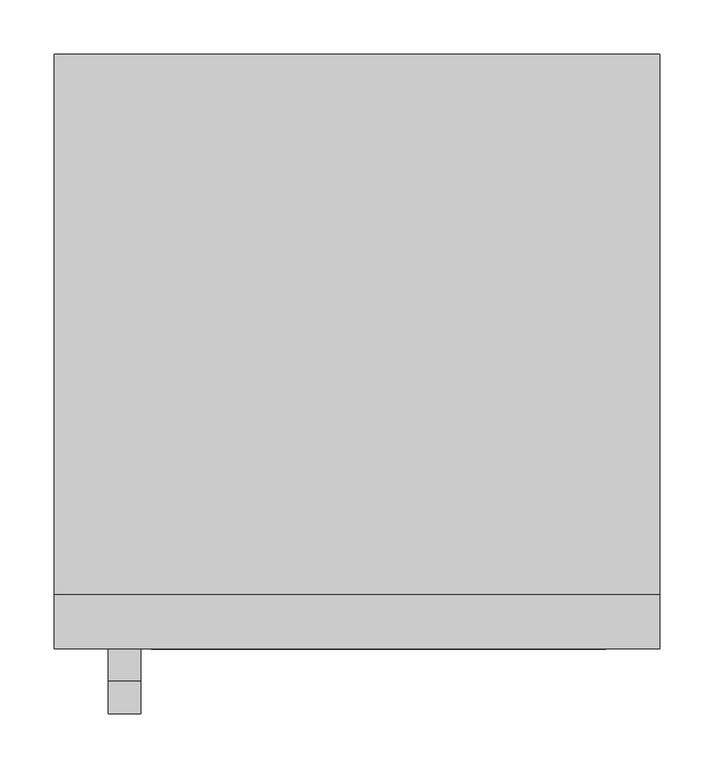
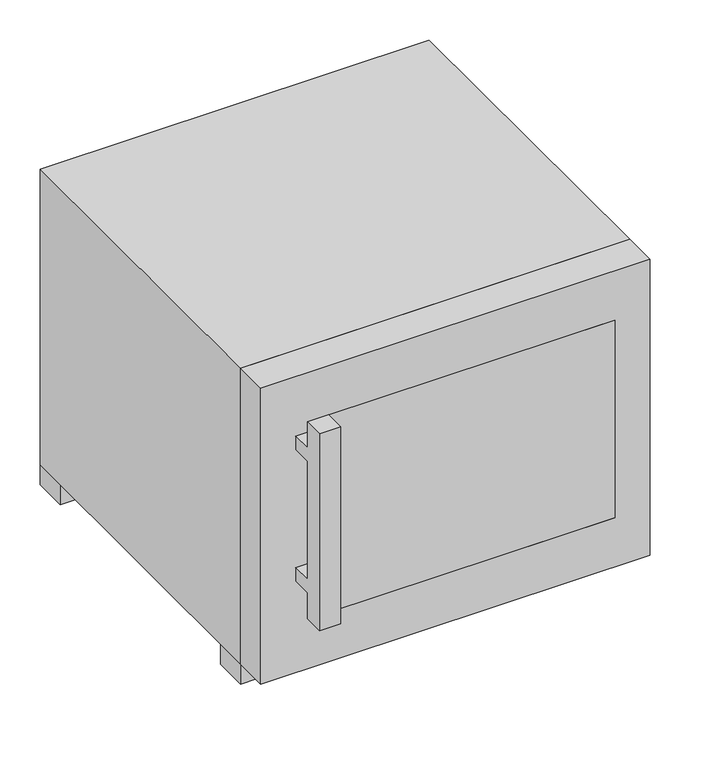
"""IFC4 building model written with IfcOpenShell, lengths in millimetres: proxy geometry, WKEes 553_136 : WKEes 553."""

from ifc_helpers import new_model, si_unit, point, frame, frame_2d, origin, place, context, project, spatial, polyline, circle_curve, trimmed, segment, composite_curve, outline, extrude, faceted_brep, source, transform, mapped, element, save


def specialty_equipment_5ac7c708(model_context):
    return source(origin(), model_context, "Body", "SolidModel", [
        extrude(outline(polyline([(-679.0947943, -532.8345306), (-704.0947943, -532.8345306), (-704.0947943, -529.8345306), (-679.0947943, -529.8345306), (-679.0947943, -532.8345306)])), frame((0.0, 0.0, 1117.6169461), z_axis=(0.0, 0.0, 1.0), x_axis=(1.0, 0.0, 0.0)), (0.0, 0.0, 1.0), 17.0975099),
        extrude(outline(composite_curve([segment(trimmed(circle_curve(frame_2d((1129.3228538, -646.6834173)), 0.8308047), [point((1129.3228538, -647.514222))], [point((1129.3228538, -645.8526126))], False, "CARTESIAN"), True, "CONTINUOUS"), segment(trimmed(circle_curve(frame_2d((1129.3228538, -646.6834173)), 0.8308047), [point((1129.3228538, -645.8526126))], [point((1129.3228538, -647.514222))], False, "CARTESIAN"), True, "CONTINUOUS")], self_intersect=False)), frame((0.0, -532.8345306, 0.0), z_axis=(0.0, 1.0, 0.0), x_axis=(0.0, 0.0, 1.0)), (0.0, 0.0, 1.0), 3.0),
        extrude(outline(composite_curve([segment(trimmed(circle_curve(frame_2d((1129.3228538, -636.6834173)), 0.8308047), [point((1129.3228538, -637.514222))], [point((1129.3228538, -635.8526126))], False, "CARTESIAN"), True, "CONTINUOUS"), segment(trimmed(circle_curve(frame_2d((1129.3228538, -636.6834173)), 0.8308047), [point((1129.3228538, -635.8526126))], [point((1129.3228538, -637.514222))], False, "CARTESIAN"), True, "CONTINUOUS")], self_intersect=False)), frame((0.0, -532.8345306, 0.0), z_axis=(0.0, 1.0, 0.0), x_axis=(0.0, 0.0, 1.0)), (0.0, 0.0, 1.0), 3.0),
        extrude(outline(composite_curve([segment(trimmed(circle_curve(frame_2d((1129.3228538, -626.6834173)), 0.8308047), [point((1129.3228538, -627.514222))], [point((1129.3228538, -625.8526126))], False, "CARTESIAN"), True, "CONTINUOUS"), segment(trimmed(circle_curve(frame_2d((1129.3228538, -626.6834173)), 0.8308047), [point((1129.3228538, -625.8526126))], [point((1129.3228538, -627.514222))], False, "CARTESIAN"), True, "CONTINUOUS")], self_intersect=False)), frame((0.0, -532.8345306, 0.0), z_axis=(0.0, 1.0, 0.0), x_axis=(0.0, 0.0, 1.0)), (0.0, 0.0, 1.0), 3.0),
        extrude(outline(composite_curve([segment(trimmed(circle_curve(frame_2d((1126.2854583, -761.6834173)), 0.8308047), [point((1126.2854583, -762.514222))], [point((1126.2854583, -760.8526126))], False, "CARTESIAN"), True, "CONTINUOUS"), segment(trimmed(circle_curve(frame_2d((1126.2854583, -761.6834173)), 0.8308047), [point((1126.2854583, -760.8526126))], [point((1126.2854583, -762.514222))], False, "CARTESIAN"), True, "CONTINUOUS")], self_intersect=False)), frame((0.0, -532.8345306, 0.0), z_axis=(0.0, 1.0, 0.0), x_axis=(0.0, 0.0, 1.0)), (0.0, 0.0, 1.0), 3.0),
        extrude(outline(composite_curve([segment(trimmed(circle_curve(frame_2d((1129.3228538, -751.6834173)), 0.8308047), [point((1129.3228538, -752.514222))], [point((1129.3228538, -750.8526126))], False, "CARTESIAN"), True, "CONTINUOUS"), segment(trimmed(circle_curve(frame_2d((1129.3228538, -751.6834173)), 0.8308047), [point((1129.3228538, -750.8526126))], [point((1129.3228538, -752.514222))], False, "CARTESIAN"), True, "CONTINUOUS")], self_intersect=False)), frame((0.0, -532.8345306, 0.0), z_axis=(0.0, 1.0, 0.0), x_axis=(0.0, 0.0, 1.0)), (0.0, 0.0, 1.0), 3.0),
        extrude(outline(composite_curve([segment(trimmed(circle_curve(frame_2d((1129.3228538, -741.6834173)), 0.8308047), [point((1129.3228538, -742.514222))], [point((1129.3228538, -740.8526126))], False, "CARTESIAN"), True, "CONTINUOUS"), segment(trimmed(circle_curve(frame_2d((1129.3228538, -741.6834173)), 0.8308047), [point((1129.3228538, -740.8526126))], [point((1129.3228538, -742.514222))], False, "CARTESIAN"), True, "CONTINUOUS")], self_intersect=False)), frame((0.0, -532.8345306, 0.0), z_axis=(0.0, 1.0, 0.0), x_axis=(0.0, 0.0, 1.0)), (0.0, 0.0, 1.0), 3.0),
        extrude(outline(polyline([(-490.0, -79.8345306), (-490.0, -120.8089886), (-490.0, -529.8345306), (-910.0, -529.8345306), (-910.0, -79.8345306), (-490.0, -79.8345306)]), holes=[polyline([(-520.0, -109.8345306), (-598.3443617, -109.8345306), (-880.0, -109.8345306), (-880.0, -499.8345306), (-830.1592296, -499.8345306), (-735.1322697, -499.8345306), (-520.0, -499.8345306), (-520.0, -109.8345306)])]), frame((0.0, 0.0, 1106.8132517), z_axis=(0.0, 0.0, 1.0), x_axis=(1.0, 0.0, 0.0)), (0.0, 0.0, 1.0), 35.0),
        extrude(outline(polyline([(-490.0, -79.8345306), (-490.0, -120.8089886), (-490.0, -529.8345306), (-910.0, -529.8345306), (-910.0, -79.8345306), (-490.0, -79.8345306)]), holes=[polyline([(-805.1592296, -109.8345306), (-880.0, -109.8345306), (-880.0, -499.8345306), (-830.1592296, -499.8345306), (-805.1592296, -499.8345306), (-805.1592296, -109.8345306)]), polyline([(-789.4706549, -499.8345306), (-725.1592296, -499.8345306), (-725.1592296, -109.8345306), (-789.4706549, -109.8345306), (-789.4706549, -499.8345306)]), polyline([(-709.4706549, -499.8345306), (-640.1592296, -499.8345306), (-640.1592296, -109.8345306), (-709.4706549, -109.8345306), (-709.4706549, -499.8345306)]), polyline([(-520.0, -109.8345306), (-554.4706549, -109.8345306), (-554.4706549, -499.8345306), (-520.0, -499.8345306), (-520.0, -109.8345306)]), polyline([(-624.4706549, -499.8345306), (-570.1592296, -499.8345306), (-570.1592296, -109.8345306), (-624.4706549, -109.8345306), (-624.4706549, -499.8345306)])]), frame((0.0, 0.0, 996.8132517), z_axis=(0.0, 0.0, 1.0), x_axis=(1.0, 0.0, 0.0)), (0.0, 0.0, 1.0), 14.5681867),
        extrude(outline(polyline([(-490.0, -79.8345306), (-490.0, -120.8089886), (-490.0, -529.8345306), (-910.0, -529.8345306), (-910.0, -79.8345306), (-490.0, -79.8345306)]), holes=[polyline([(-805.1592296, -109.8345306), (-880.0, -109.8345306), (-880.0, -499.8345306), (-830.1592296, -499.8345306), (-805.1592296, -499.8345306), (-805.1592296, -109.8345306)]), polyline([(-789.4706549, -499.8345306), (-725.1592296, -499.8345306), (-725.1592296, -109.8345306), (-789.4706549, -109.8345306), (-789.4706549, -499.8345306)]), polyline([(-709.4706549, -499.8345306), (-640.1592296, -499.8345306), (-640.1592296, -109.8345306), (-709.4706549, -109.8345306), (-709.4706549, -499.8345306)]), polyline([(-520.0, -109.8345306), (-554.4706549, -109.8345306), (-554.4706549, -499.8345306), (-520.0, -499.8345306), (-520.0, -109.8345306)]), polyline([(-624.4706549, -499.8345306), (-570.1592296, -499.8345306), (-570.1592296, -109.8345306), (-624.4706549, -109.8345306), (-624.4706549, -499.8345306)])]), frame((0.0, 0.0, 916.8132517), z_axis=(0.0, 0.0, 1.0), x_axis=(1.0, 0.0, 0.0)), (0.0, 0.0, 1.0), 15.0),
        extrude(outline(polyline([(-490.0, -79.8345306), (-490.0, -120.8089886), (-490.0, -529.8345306), (-910.0, -529.8345306), (-910.0, -79.8345306), (-490.0, -79.8345306)]), holes=[polyline([(-805.1592296, -109.8345306), (-880.0, -109.8345306), (-880.0, -499.8345306), (-830.1592296, -499.8345306), (-805.1592296, -499.8345306), (-805.1592296, -109.8345306)]), polyline([(-789.4706549, -499.8345306), (-725.1592296, -499.8345306), (-725.1592296, -109.8345306), (-789.4706549, -109.8345306), (-789.4706549, -499.8345306)]), polyline([(-709.4706549, -499.8345306), (-640.1592296, -499.8345306), (-640.1592296, -109.8345306), (-709.4706549, -109.8345306), (-709.4706549, -499.8345306)]), polyline([(-520.0, -109.8345306), (-554.4706549, -109.8345306), (-554.4706549, -499.8345306), (-520.0, -499.8345306), (-520.0, -109.8345306)]), polyline([(-624.4706549, -499.8345306), (-570.1592296, -499.8345306), (-570.1592296, -109.8345306), (-624.4706549, -109.8345306), (-624.4706549, -499.8345306)])]), frame((0.0, 0.0, 841.8132517), z_axis=(0.0, 0.0, 1.0), x_axis=(1.0, 0.0, 0.0)), (0.0, 0.0, 1.0), 5.4301542),
        extrude(outline(polyline([(-490.0, -579.8345306), (-910.0, -579.8345306), (-910.0, -529.8345306), (-490.0, -529.8345306), (-490.0, -579.8345306)])), frame((0.0, 0.0, 841.8132517), z_axis=(0.0, 0.0, 1.0), x_axis=(1.0, 0.0, 0.0)), (0.0, 0.0, 1.0), 300.0),
        extrude(outline(polyline([(1216.8132517, -440.0), (1216.8132517, -1000.0), (766.8132517, -1000.0), (766.8132517, -440.0), (1216.8132517, -440.0)]), holes=[polyline([(1141.8132517, -910.0), (1141.8132517, -490.0), (841.8132517, -490.0), (841.8132517, -910.0), (1141.8132517, -910.0)])]), frame((0.0, -579.8345306, 0.0), z_axis=(0.0, 1.0, 0.0), x_axis=(0.0, 0.0, 1.0)), (0.0, 0.0, 1.0), 50.0),
        faceted_brep([(-440.0, -529.8345306, 1216.8132517), (-1000.0, -529.8345306, 1216.8132517), (-1000.0, -529.8345306, 766.8132517), (-440.0, -529.8345306, 766.8132517), (-910.0, -529.8345306, 1141.8132517), (-490.0, -529.8345306, 1141.8132517), (-490.0, -529.8345306, 841.8132517), (-910.0, -529.8345306, 841.8132517), (-440.0, -29.8345306, 1216.8132517), (-440.0, -29.8345306, 766.8132517), (-1000.0, -29.8345306, 766.8132517), (-1000.0, -29.8345306, 1216.8132517), (-490.0, -79.8345306, 1141.8132517), (-910.0, -79.8345306, 1141.8132517), (-910.0, -79.8345306, 841.8132517), (-490.0, -79.8345306, 841.8132517)], [[[0, 1, 2, 3], [4, 5, 6, 7]], [[8, 9, 10, 11]], [[1, 0, 8, 11]], [[2, 1, 11, 10]], [[3, 2, 10, 9]], [[0, 3, 9, 8]], [[12, 13, 14, 15]], [[13, 12, 5, 4]], [[14, 13, 4, 7]], [[15, 14, 7, 6]], [[12, 15, 6, 5]]]),
        extrude(outline(polyline([(-440.0, -479.8345306), (-440.0, -529.8345306), (-490.0, -529.8345306), (-490.0, -479.8345306), (-440.0, -479.8345306)])), frame((0.0, 0.0, 736.8132517), z_axis=(0.0, 0.0, 1.0), x_axis=(1.0, 0.0, 0.0)), (0.0, 0.0, 1.0), 30.0),
        extrude(outline(polyline([(-440.0, -29.8345306), (-440.0, -79.8345306), (-490.0, -79.8345306), (-490.0, -29.8345306), (-440.0, -29.8345306)])), frame((0.0, 0.0, 736.8132517), z_axis=(0.0, 0.0, 1.0), x_axis=(1.0, 0.0, 0.0)), (0.0, 0.0, 1.0), 30.0),
        extrude(outline(polyline([(-950.0, -29.8345306), (-950.0, -79.8345306), (-1000.0, -79.8345306), (-1000.0, -29.8345306), (-950.0, -29.8345306)])), frame((0.0, 0.0, 736.8132517), z_axis=(0.0, 0.0, 1.0), x_axis=(1.0, 0.0, 0.0)), (0.0, 0.0, 1.0), 30.0),
        extrude(outline(polyline([(-950.0, -479.8345306), (-950.0, -529.8345306), (-1000.0, -529.8345306), (-1000.0, -479.8345306), (-950.0, -479.8345306)])), frame((0.0, 0.0, 736.8132517), z_axis=(0.0, 0.0, 1.0), x_axis=(1.0, 0.0, 0.0)), (0.0, 0.0, 1.0), 30.0),
        extrude(outline(polyline([(-609.8345306, 1126.8132517), (-579.8345306, 1126.8132517), (-579.8345306, 1106.8132517), (-609.8345306, 1106.8132517), (-609.8345306, 926.8132517), (-579.8345306, 926.8132517), (-579.8345306, 906.8132517), (-609.8345306, 906.8132517), (-609.8345306, 866.8132517), (-639.8345306, 866.8132517), (-639.8345306, 1166.8132517), (-609.8345306, 1166.8132517), (-609.8345306, 1126.8132517)])), frame((-950.0, 0.0, 0.0), z_axis=(1.0, 0.0, 0.0), x_axis=(0.0, 1.0, 0.0)), (0.0, 0.0, 1.0), 30.0),
    ])


if __name__ == "__main__":
    model = new_model("IFC4")
    model_context = context("Model", 3, world=origin())
    ifc_project = project(units=[si_unit("LENGTHUNIT", "METRE", prefix="MILLI")], contexts=[model_context])
    site = spatial("IfcSite", under=ifc_project)
    building = spatial("IfcBuilding", under=site)
    placement = place(None, origin())
    specialty_equipment_shape = specialty_equipment_5ac7c708(model_context)
    element("IfcBuildingElementProxy", 1, Name="WKEes 553_136 : WKEes 553", ObjectType="WKEes 553_136 : WKEes 553", at=placement, inside=building, context=model_context, shape_type="MappedRepresentation", body=[
        mapped(specialty_equipment_shape, transform((0.0, 0.0, 0.0), x_axis=(1.0, 0.0, 0.0), y_axis=(0.0, 1.0, 0.0), z_axis=(0.0, 0.0, 1.0))),
    ])
    save(model, "model.ifc")
